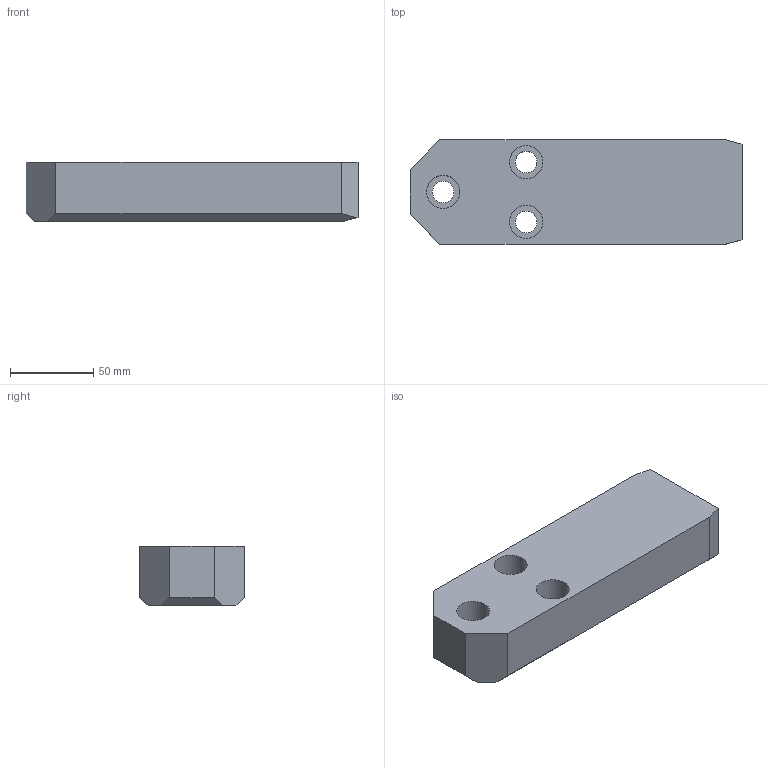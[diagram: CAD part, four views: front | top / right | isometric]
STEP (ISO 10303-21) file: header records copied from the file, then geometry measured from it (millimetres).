
FILE_DESCRIPTION(/* description */ ('Impex Ready, www.impex-ready.pl'),/* implementation_level */ '2;1');
FILE_NAME(/* name */ 'C:\Users\VIKKY\Nextcloud\SM\projekt 10 - części na stronę internetową\Pliki_3D_new\338 Listwy LR13\338 LR13_STEP\LR13.06336200.ipt.step',/* time_stamp */ '2021-12-20T13:38:14+01:00',/* author */ ('SM'),/* organization */ (''),/* preprocessor_version */ 'ST-DEVELOPER v18.1',/* originating_system */ 'Autodesk Inventor 2021',/* authorisation */ '');
FILE_SCHEMA (('AUTOMOTIVE_DESIGN { 1 0 10303 214 3 1 1 }'));
Length unit declared in the file: millimetre
Products named in the file (1): LR13.06336200
Bounding box: 200 x 63 x 36 mm (x, y, z)
Volume: 412333 mm3; surface area: 45849.5 mm2
Topology: 1 solids, 1 shells, 23 faces, 54 edges, 36 vertices
Faces by surface type: plane 17, cylinder 6
Full cylindrical faces by diameter (mm): 13 x3, 20 x3
Entity records: 754 total; most frequent: DIRECTION 114, CARTESIAN_POINT 114, ORIENTED_EDGE 108, EDGE_CURVE 54, LINE 42, VECTOR 42, VERTEX_POINT 36, AXIS2_PLACEMENT_3D 36
